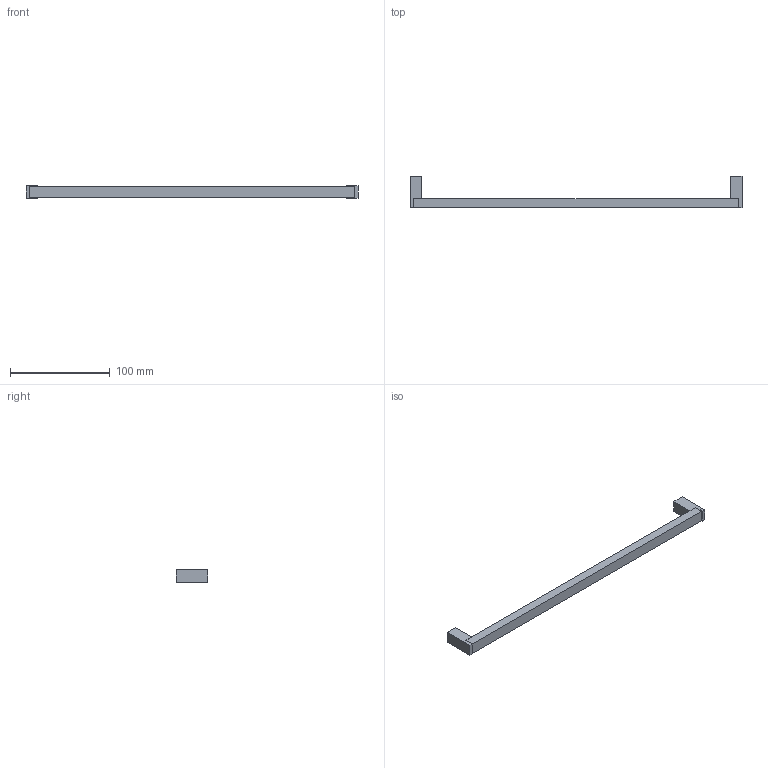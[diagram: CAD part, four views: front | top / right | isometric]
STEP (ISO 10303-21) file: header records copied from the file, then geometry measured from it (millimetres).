
FILE_DESCRIPTION( ( 'STEP AP214' ), '1' );
FILE_NAME( 'C:/Users/kulkarni/Desktop/Apurva/2015/Prodecor_2016/Cadfiles/bermeo/9208080.stp', ' ', ( ' ' ), ( ' ' ), 'PSStep 15.0.47', 'PARTsolutions', ' ' );
FILE_SCHEMA( ( 'AUTOMOTIVE_DESIGN { 1 0 10303 214 1 1 1 1 }' ) );
Length unit declared in the file: millimetre
Products named in the file (1): _
Bounding box: 333 x 32 x 12.15 mm (x, y, z)
Volume: 40536.7 mm3; surface area: 16615.8 mm2
Topology: 1 solids, 1 shells, 26 faces, 62 edges, 40 vertices
Faces by surface type: plane 24, cylinder 2
Full cylindrical faces by diameter (mm): 5 x2
Entity records: 952 total; most frequent: CARTESIAN_POINT 127, ORIENTED_EDGE 120, DIRECTION 118, EDGE_CURVE 60, LINE 56, VECTOR 56, VERTEX_POINT 40, AXIS2_PLACEMENT_3D 31
